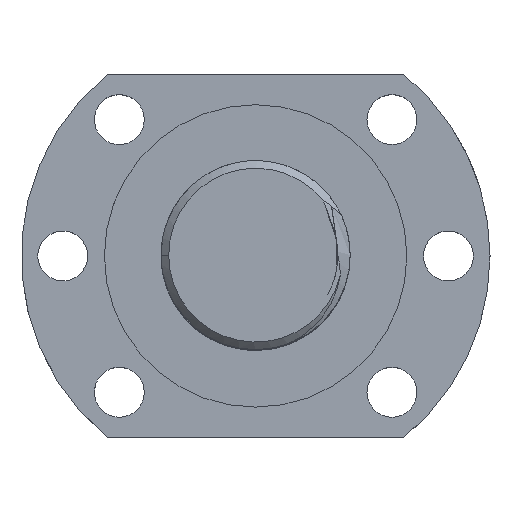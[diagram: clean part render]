
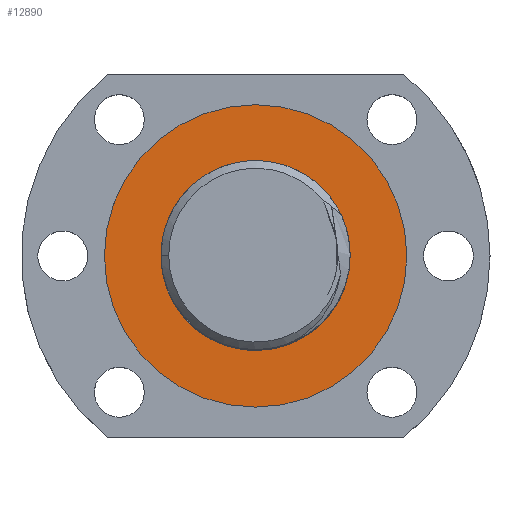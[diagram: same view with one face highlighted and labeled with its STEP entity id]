
A CAD part, top view. The second image highlights one B-rep face of the part: STEP entity #12890.
In plain terms, the highlighted planar face has unit normal (0, 0, 1) as drawn and (0, -1, 0) by its records, which use the part's own axes.
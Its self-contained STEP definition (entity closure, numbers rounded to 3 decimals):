
#1214 = CARTESIAN_POINT ( 'NONE',  ( 0., -40., 0. ) ) ;
#2105 = VERTEX_POINT ( 'NONE', #2880 ) ;
#2150 = CIRCLE ( 'NONE', #13803, 12.5 ) ;
#2492 = AXIS2_PLACEMENT_3D ( 'NONE', #17081, #4161, #18437 ) ;
#2880 = CARTESIAN_POINT ( 'NONE',  ( 0., -40., -12.5 ) ) ;
#4120 = ORIENTED_EDGE ( 'NONE', *, *, #16196, .F. ) ;
#4161 = DIRECTION ( 'NONE',  ( 0., 1., 0. ) ) ;
#4211 = ORIENTED_EDGE ( 'NONE', *, *, #8951, .F. ) ;
#4726 = DIRECTION ( 'NONE',  ( 0., 1., 0. ) ) ;
#4936 = CARTESIAN_POINT ( 'NONE',  ( 0., -40., 0. ) ) ;
#4978 = EDGE_CURVE ( 'NONE', #10298, #7662, #7450, .T. ) ;
#5466 = VERTEX_POINT ( 'NONE', #20654 ) ;
#6144 = DIRECTION ( 'NONE',  ( 1., 0., 0. ) ) ;
#6752 = DIRECTION ( 'NONE',  ( 0., 1., 0. ) ) ;
#7450 = CIRCLE ( 'NONE', #17082, 20. ) ;
#7616 = DIRECTION ( 'NONE',  ( 0., -1., 0. ) ) ;
#7662 = VERTEX_POINT ( 'NONE', #20451 ) ;
#7721 = FACE_BOUND ( 'NONE', #20259, .T. ) ;
#8951 = EDGE_CURVE ( 'NONE', #2105, #5466, #2150, .T. ) ;
#9085 = CARTESIAN_POINT ( 'NONE',  ( 0., -40., 0. ) ) ;
#9196 = DIRECTION ( 'NONE',  ( 0., -1., 0. ) ) ;
#10298 = VERTEX_POINT ( 'NONE', #11877 ) ;
#10461 = ORIENTED_EDGE ( 'NONE', *, *, #4978, .F. ) ;
#10742 = DIRECTION ( 'NONE',  ( 1., 0., 0. ) ) ;
#11877 = CARTESIAN_POINT ( 'NONE',  ( 0., -40., -20. ) ) ;
#12302 = FACE_OUTER_BOUND ( 'NONE', #16716, .T. ) ;
#12890 = ADVANCED_FACE ( 'NONE', ( #12302, #7721 ), #17190, .F. ) ;
#12980 = EDGE_CURVE ( 'NONE', #5466, #2105, #20143, .T. ) ;
#12991 = CARTESIAN_POINT ( 'NONE',  ( 0., -40., 0. ) ) ;
#13803 = AXIS2_PLACEMENT_3D ( 'NONE', #9085, #7616, #10742 ) ;
#14110 = DIRECTION ( 'NONE',  ( 1., 0., 0. ) ) ;
#14836 = AXIS2_PLACEMENT_3D ( 'NONE', #1214, #9196, #15408 ) ;
#14854 = AXIS2_PLACEMENT_3D ( 'NONE', #12991, #6752, #6144 ) ;
#15408 = DIRECTION ( 'NONE',  ( 1., 0., 0. ) ) ;
#16196 = EDGE_CURVE ( 'NONE', #7662, #10298, #18496, .T. ) ;
#16716 = EDGE_LOOP ( 'NONE', ( #10461, #4120 ) ) ;
#17081 = CARTESIAN_POINT ( 'NONE',  ( 0., -40., 0. ) ) ;
#17082 = AXIS2_PLACEMENT_3D ( 'NONE', #4936, #4726, #14110 ) ;
#17190 = PLANE ( 'NONE',  #2492 ) ;
#18437 = DIRECTION ( 'NONE',  ( 1., 0., 0. ) ) ;
#18496 = CIRCLE ( 'NONE', #14854, 20. ) ;
#19927 = ORIENTED_EDGE ( 'NONE', *, *, #12980, .F. ) ;
#20143 = CIRCLE ( 'NONE', #14836, 12.5 ) ;
#20259 = EDGE_LOOP ( 'NONE', ( #4211, #19927 ) ) ;
#20451 = CARTESIAN_POINT ( 'NONE',  ( 0., -40., 20. ) ) ;
#20654 = CARTESIAN_POINT ( 'NONE',  ( 0., -40., 12.5 ) ) ;
